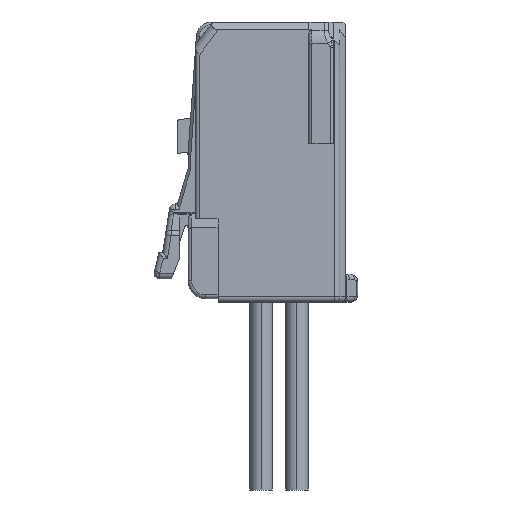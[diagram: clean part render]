
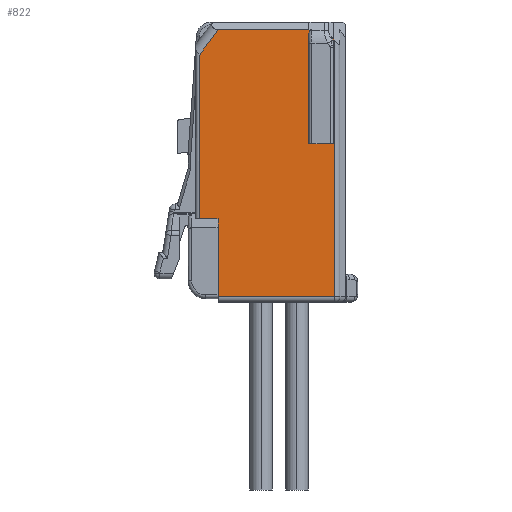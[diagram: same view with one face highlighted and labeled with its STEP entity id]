
A CAD part, left-side view. The second image highlights one B-rep face of the part: STEP entity #822.
In plain terms, the highlighted planar face has unit normal (-1, 0, 0).
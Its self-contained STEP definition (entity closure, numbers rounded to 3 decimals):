
#98 = ORIENTED_EDGE ( 'NONE', *, *, #9024, .F. ) ;
#172 = VECTOR ( 'NONE', #14398, 1000. ) ;
#174 = CARTESIAN_POINT ( 'NONE',  ( -4.975, 1.5, -0.4 ) ) ;
#284 = ORIENTED_EDGE ( 'NONE', *, *, #9148, .T. ) ;
#428 = VECTOR ( 'NONE', #4455, 1000. ) ;
#470 = ORIENTED_EDGE ( 'NONE', *, *, #7564, .T. ) ;
#586 = DIRECTION ( 'NONE',  ( 0., 0., -1. ) ) ;
#822 = ADVANCED_FACE ( 'NONE', ( #6875 ), #12740, .T. ) ;
#953 = ORIENTED_EDGE ( 'NONE', *, *, #8529, .T. ) ;
#970 = CARTESIAN_POINT ( 'NONE',  ( -4.975, 1.65, -0.4 ) ) ;
#1008 = ORIENTED_EDGE ( 'NONE', *, *, #8243, .F. ) ;
#1049 = CARTESIAN_POINT ( 'NONE',  ( -4.975, 0.3, -0.966 ) ) ;
#1278 = ORIENTED_EDGE ( 'NONE', *, *, #7784, .F. ) ;
#1287 = DIRECTION ( 'NONE',  ( 0., 1., 0. ) ) ;
#1510 = CARTESIAN_POINT ( 'NONE',  ( -4.975, 6.5, -0.4 ) ) ;
#1674 = ORIENTED_EDGE ( 'NONE', *, *, #7874, .T. ) ;
#1855 = DIRECTION ( 'NONE',  ( 0., 0., 1. ) ) ;
#1860 = VERTEX_POINT ( 'NONE', #7818 ) ;
#1869 = LINE ( 'NONE', #11672, #10824 ) ;
#2077 = ORIENTED_EDGE ( 'NONE', *, *, #8731, .T. ) ;
#2127 = CARTESIAN_POINT ( 'NONE',  ( -4.975, -4.226, -7.366 ) ) ;
#2194 = ORIENTED_EDGE ( 'NONE', *, *, #7389, .T. ) ;
#2683 = CARTESIAN_POINT ( 'NONE',  ( -4.975, 0.453, -0.75 ) ) ;
#2693 = VERTEX_POINT ( 'NONE', #3595 ) ;
#3177 = VERTEX_POINT ( 'NONE', #5051 ) ;
#3289 = AXIS2_PLACEMENT_3D ( 'NONE', #13140, #13291, #13330 ) ;
#3303 = LINE ( 'NONE', #4075, #172 ) ;
#3459 = VERTEX_POINT ( 'NONE', #4577 ) ;
#3551 = LINE ( 'NONE', #14775, #428 ) ;
#3591 = CARTESIAN_POINT ( 'NONE',  ( -4.975, 7.5, -14.95 ) ) ;
#3595 = CARTESIAN_POINT ( 'NONE',  ( -4.975, 7.5, -10.5 ) ) ;
#3612 = VECTOR ( 'NONE', #14433, 1000. ) ;
#3637 = EDGE_CURVE ( 'NONE', #6289, #8546, #13975, .T. ) ;
#3658 =( BOUNDED_CURVE ( )  B_SPLINE_CURVE ( 3, ( #2683, #9685, #3868, #11963 ),
 .UNSPECIFIED., .F., .T. ) 
 B_SPLINE_CURVE_WITH_KNOTS ( ( 4, 4 ),
 ( 3.927, 4.712 ),
 .UNSPECIFIED. ) 
 CURVE ( )  GEOMETRIC_REPRESENTATION_ITEM ( )  RATIONAL_B_SPLINE_CURVE ( ( 1., 0.949, 0.949, 1. ) ) 
 REPRESENTATION_ITEM ( '' )  );
#3868 = CARTESIAN_POINT ( 'NONE',  ( -4.975, 0.35, -0.967 ) ) ;
#3998 = VECTOR ( 'NONE', #1287, 1000. ) ;
#4075 = CARTESIAN_POINT ( 'NONE',  ( -4.975, 6.8, -0.4 ) ) ;
#4284 = CARTESIAN_POINT ( 'NONE',  ( -4.975, 6.5, -10.5 ) ) ;
#4455 = DIRECTION ( 'NONE',  ( 0., 1., 0. ) ) ;
#4470 = ORIENTED_EDGE ( 'NONE', *, *, #8825, .F. ) ;
#4577 = CARTESIAN_POINT ( 'NONE',  ( -4.975, 0.453, -0.75 ) ) ;
#4600 = DIRECTION ( 'NONE',  ( 0., 0.6, -0.8 ) ) ;
#4801 = DIRECTION ( 'NONE',  ( 0., 0., -1. ) ) ;
#4867 = CARTESIAN_POINT ( 'NONE',  ( -4.975, 1.579, -0.423 ) ) ;
#4879 = VECTOR ( 'NONE', #1855, 1000. ) ;
#5051 = CARTESIAN_POINT ( 'NONE',  ( -4.975, 0.35, -0.895 ) ) ;
#5136 = VECTOR ( 'NONE', #4801, 1000. ) ;
#5266 = CARTESIAN_POINT ( 'NONE',  ( -4.975, 6.5, -14.65 ) ) ;
#5570 = CARTESIAN_POINT ( 'NONE',  ( -4.975, 0.35, -6.5 ) ) ;
#5810 = CARTESIAN_POINT ( 'NONE',  ( -4.975, 1.65, -0.623 ) ) ;
#5898 = DIRECTION ( 'NONE',  ( 0., -0.577, -0.816 ) ) ;
#5916 = CARTESIAN_POINT ( 'NONE',  ( -4.975, 6.475, -0.4 ) ) ;
#5982 = CARTESIAN_POINT ( 'NONE',  ( -4.975, 6.5, -10.5 ) ) ;
#6227 = VERTEX_POINT ( 'NONE', #8753 ) ;
#6289 = VERTEX_POINT ( 'NONE', #4284 ) ;
#6463 = CARTESIAN_POINT ( 'NONE',  ( -4.975, 6.5, -14.95 ) ) ;
#6875 = FACE_OUTER_BOUND ( 'NONE', #10399, .T. ) ;
#6960 = CARTESIAN_POINT ( 'NONE',  ( -4.975, 1.608, -0.464 ) ) ;
#7104 = ORIENTED_EDGE ( 'NONE', *, *, #8138, .T. ) ;
#7199 = CARTESIAN_POINT ( 'NONE',  ( -4.975, 1.541, -0.4 ) ) ;
#7389 = EDGE_CURVE ( 'NONE', #11394, #8416, #1869, .T. ) ;
#7564 = EDGE_CURVE ( 'NONE', #8416, #1860, #11717, .T. ) ;
#7675 = EDGE_CURVE ( 'NONE', #1860, #8875, #13743, .T. ) ;
#7784 = EDGE_CURVE ( 'NONE', #9159, #8875, #12360, .T. ) ;
#7811 = CARTESIAN_POINT ( 'NONE',  ( -4.975, 0.35, -1.1 ) ) ;
#7818 = CARTESIAN_POINT ( 'NONE',  ( -4.975, 1.608, -0.464 ) ) ;
#7854 = LINE ( 'NONE', #3591, #5136 ) ;
#7874 = EDGE_CURVE ( 'NONE', #9159, #11702, #3303, .T. ) ;
#7949 = VERTEX_POINT ( 'NONE', #13479 ) ;
#7965 = LINE ( 'NONE', #8862, #4879 ) ;
#7993 = VECTOR ( 'NONE', #12566, 1000. ) ;
#8053 = EDGE_CURVE ( 'NONE', #11702, #7949, #10773, .T. ) ;
#8138 = EDGE_CURVE ( 'NONE', #7949, #2693, #7854, .T. ) ;
#8177 = LINE ( 'NONE', #14613, #13877 ) ;
#8243 = EDGE_CURVE ( 'NONE', #6289, #2693, #10577, .T. ) ;
#8281 = VECTOR ( 'NONE', #586, 1000. ) ;
#8416 = VERTEX_POINT ( 'NONE', #11951 ) ;
#8529 = EDGE_CURVE ( 'NONE', #8546, #6227, #9825, .T. ) ;
#8546 = VERTEX_POINT ( 'NONE', #14479 ) ;
#8627 = EDGE_CURVE ( 'NONE', #6227, #11532, #8177, .T. ) ;
#8731 = EDGE_CURVE ( 'NONE', #11532, #3177, #14042, .T. ) ;
#8753 = CARTESIAN_POINT ( 'NONE',  ( -4.975, 0.3, -14.65 ) ) ;
#8825 = EDGE_CURVE ( 'NONE', #3459, #3177, #14206, .T. ) ;
#8862 = CARTESIAN_POINT ( 'NONE',  ( -4.975, 0.35, -6.5 ) ) ;
#8875 = VERTEX_POINT ( 'NONE', #11868 ) ;
#8921 = EDGE_CURVE ( 'NONE', #3459, #10939, #3658, .T. ) ;
#9024 = EDGE_CURVE ( 'NONE', #11400, #10939, #7965, .T. ) ;
#9148 = EDGE_CURVE ( 'NONE', #11400, #11394, #3551, .T. ) ;
#9159 = VERTEX_POINT ( 'NONE', #970 ) ;
#9328 = VECTOR ( 'NONE', #13095, 1000. ) ;
#9685 = CARTESIAN_POINT ( 'NONE',  ( -4.975, 0.386, -0.844 ) ) ;
#9825 = LINE ( 'NONE', #5266, #3612 ) ;
#10399 = EDGE_LOOP ( 'NONE', ( #2194, #470, #14466, #1278, #1674, #14625, #7104, #1008, #14750, #953, #14691, #2077, #4470, #14912, #98, #284 ) ) ;
#10577 = LINE ( 'NONE', #5982, #3998 ) ;
#10591 = DIRECTION ( 'NONE',  ( 0., 0., 1. ) ) ;
#10773 = LINE ( 'NONE', #12637, #13739 ) ;
#10824 = VECTOR ( 'NONE', #10591, 1000. ) ;
#10939 = VERTEX_POINT ( 'NONE', #7811 ) ;
#11251 = VECTOR ( 'NONE', #5898, 1000. ) ;
#11394 = VERTEX_POINT ( 'NONE', #12436 ) ;
#11400 = VERTEX_POINT ( 'NONE', #5570 ) ;
#11532 = VERTEX_POINT ( 'NONE', #1049 ) ;
#11672 = CARTESIAN_POINT ( 'NONE',  ( -4.975, 1.65, -6.5 ) ) ;
#11702 = VERTEX_POINT ( 'NONE', #5916 ) ;
#11717 = B_SPLINE_CURVE_WITH_KNOTS ( 'NONE', 3,
 ( #5810, #12649, #13791, #6960 ),
 .UNSPECIFIED., .F., .F.,
 ( 4, 4 ),
 ( 0., 0. ),
 .UNSPECIFIED. ) ;
#11868 = CARTESIAN_POINT ( 'NONE',  ( -4.975, 1.5, -0.4 ) ) ;
#11951 = CARTESIAN_POINT ( 'NONE',  ( -4.975, 1.65, -0.623 ) ) ;
#11963 = CARTESIAN_POINT ( 'NONE',  ( -4.975, 0.35, -1.1 ) ) ;
#12360 = LINE ( 'NONE', #1510, #9328 ) ;
#12436 = CARTESIAN_POINT ( 'NONE',  ( -4.975, 1.65, -6.5 ) ) ;
#12566 = DIRECTION ( 'NONE',  ( 0., 0.577, 0.816 ) ) ;
#12637 = CARTESIAN_POINT ( 'NONE',  ( -4.975, 7.1, -1.233 ) ) ;
#12649 = CARTESIAN_POINT ( 'NONE',  ( -4.975, 1.65, -0.567 ) ) ;
#12740 = PLANE ( 'NONE',  #3289 ) ;
#12898 = CARTESIAN_POINT ( 'NONE',  ( -4.975, 1.608, -0.464 ) ) ;
#13095 = DIRECTION ( 'NONE',  ( 0., -1., 0. ) ) ;
#13140 = CARTESIAN_POINT ( 'NONE',  ( -4.975, 6.5, -14.95 ) ) ;
#13291 = DIRECTION ( 'NONE',  ( -1., 0., 0. ) ) ;
#13330 = DIRECTION ( 'NONE',  ( 0., 0., 1. ) ) ;
#13479 = CARTESIAN_POINT ( 'NONE',  ( -4.975, 7.5, -1.767 ) ) ;
#13739 = VECTOR ( 'NONE', #4600, 1000. ) ;
#13743 =( BOUNDED_CURVE ( )  B_SPLINE_CURVE ( 3, ( #12898, #4867, #7199, #174 ),
 .UNSPECIFIED., .F., .T. ) 
 B_SPLINE_CURVE_WITH_KNOTS ( ( 4, 4 ),
 ( 5.484, 6.283 ),
 .UNSPECIFIED. ) 
 CURVE ( )  GEOMETRIC_REPRESENTATION_ITEM ( )  RATIONAL_B_SPLINE_CURVE ( ( 1., 0.947, 0.947, 1. ) ) 
 REPRESENTATION_ITEM ( '' )  );
#13791 = CARTESIAN_POINT ( 'NONE',  ( -4.975, 1.639, -0.51 ) ) ;
#13877 = VECTOR ( 'NONE', #14522, 1000. ) ;
#13879 = CARTESIAN_POINT ( 'NONE',  ( -4.975, -0.971, -2.763 ) ) ;
#13975 = LINE ( 'NONE', #6463, #8281 ) ;
#14042 = LINE ( 'NONE', #2127, #7993 ) ;
#14206 = LINE ( 'NONE', #13879, #11251 ) ;
#14398 = DIRECTION ( 'NONE',  ( 0., 1., 0. ) ) ;
#14433 = DIRECTION ( 'NONE',  ( 0., -1., 0. ) ) ;
#14466 = ORIENTED_EDGE ( 'NONE', *, *, #7675, .T. ) ;
#14479 = CARTESIAN_POINT ( 'NONE',  ( -4.975, 6.5, -14.65 ) ) ;
#14522 = DIRECTION ( 'NONE',  ( 0., 0., 1. ) ) ;
#14613 = CARTESIAN_POINT ( 'NONE',  ( -4.975, 0.3, -1.39 ) ) ;
#14625 = ORIENTED_EDGE ( 'NONE', *, *, #8053, .T. ) ;
#14691 = ORIENTED_EDGE ( 'NONE', *, *, #8627, .T. ) ;
#14750 = ORIENTED_EDGE ( 'NONE', *, *, #3637, .T. ) ;
#14775 = CARTESIAN_POINT ( 'NONE',  ( -4.975, 1.65, -6.5 ) ) ;
#14912 = ORIENTED_EDGE ( 'NONE', *, *, #8921, .T. ) ;
